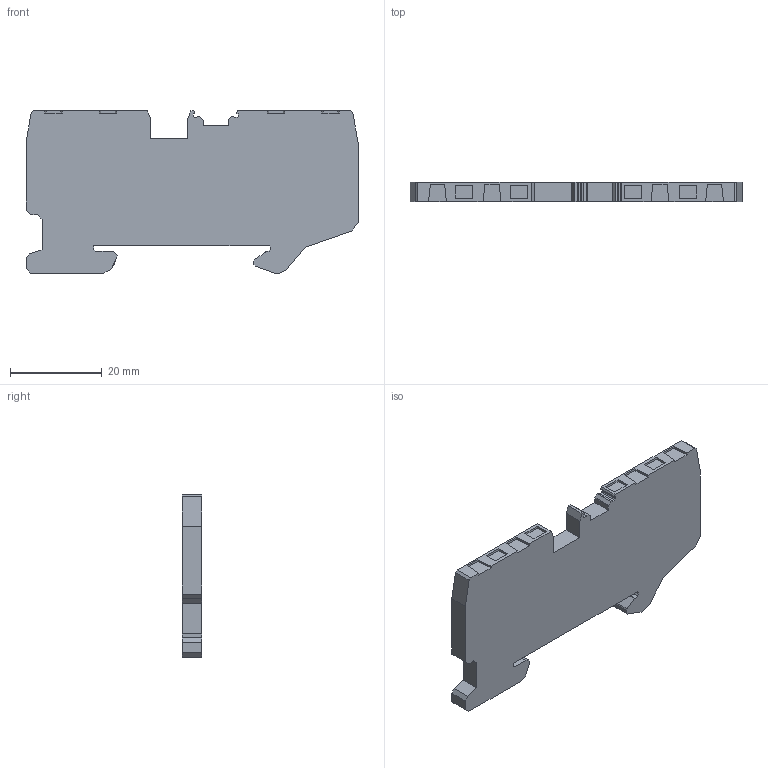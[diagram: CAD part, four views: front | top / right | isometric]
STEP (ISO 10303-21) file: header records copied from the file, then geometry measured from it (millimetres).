
FILE_DESCRIPTION(('FreeCAD Model'),'2;1');
FILE_NAME('Open CASCADE Shape Model','2022-02-23T09:50:58',( 'Engenharia Metaltex'),('Metaltex'), 'Open CASCADE STEP processor 7.5','FreeCAD','Unknown');
FILE_SCHEMA(('AUTOMOTIVE_DESIGN { 1 0 10303 214 1 1 1 1 }'));
Length unit declared in the file: millimetre
Products named in the file (1): BK1-FT4
Bounding box: 72.4 x 4.2 x 35.4 mm (x, y, z)
Volume: 8975.2 mm3; surface area: 5406.7 mm2
Topology: 1 solids, 1 shells, 110 faces, 310 edges, 208 vertices
Faces by surface type: bspline 110
Entity records: 11158 total; most frequent: CARTESIAN_POINT 7056, B_SPLINE_CURVE_WITH_KNOTS 803, ORIENTED_EDGE 620, PCURVE 620, DEFINITIONAL_REPRESENTATION 620, EDGE_CURVE 310, SURFACE_CURVE 310, VERTEX_POINT 208
